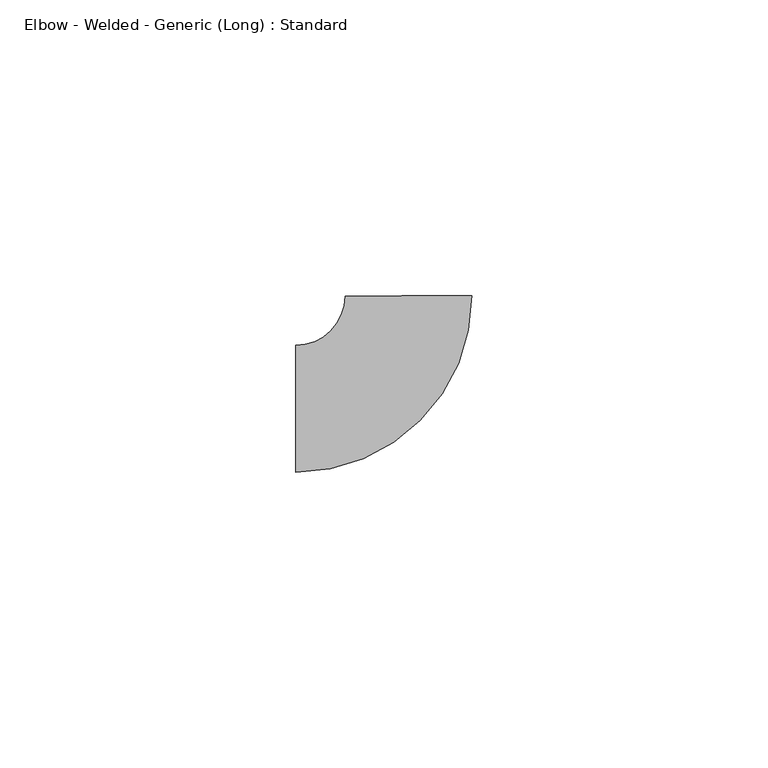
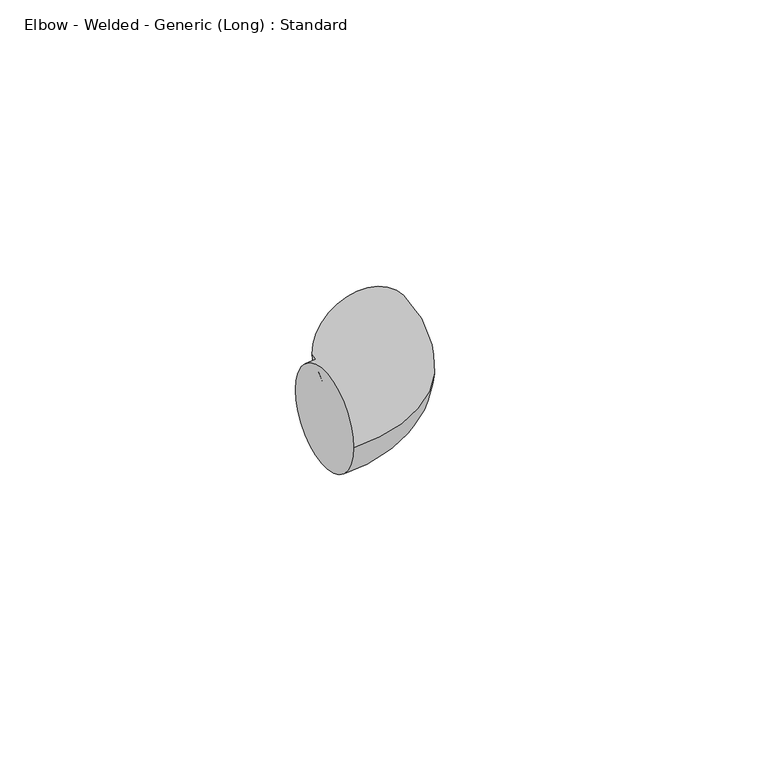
"""IFC4 building model written with IfcOpenShell, lengths in millimetres: pipe fitting geometry, Elbow - Welded - Generic (Long) : Standard."""

import ifcopenshell
import ifcopenshell.guid

model = None  # the IFC model being written
_history = None  # IfcOwnerHistory: only IFC2X3 demands one
_inside = {}  # id of a spatial element -> (the spatial element, [elements in it])
_under = {}  # id of a project, library or spatial element -> (it, [spatial elements below it])
_declared = {}  # id of a project -> (the project, [libraries it declares])
_typed = {}  # id of a type object -> (the type object, [elements of that type])
_made_of = {}  # id of a material, layer set ... -> (it, [elements and type objects made of it])


def new_model(schema):
    """Start an empty IFC model of exactly this schema.

    Asked for "IFC4X3", IfcOpenShell would pick the latest addendum, in which some entities
    have other attributes; the version numbers below select the first issue.
    IFC2X3 requires an IfcOwnerHistory on every rooted entity: one is made here for all.
    """
    global model, _history
    if schema == "IFC4X3":
        model = ifcopenshell.file(schema_version=(4, 3, 0, 0))
    else:
        model = ifcopenshell.file(schema=schema)
    _inside.clear()
    _under.clear()
    _declared.clear()
    _typed.clear()
    _made_of.clear()
    _history = None
    if model.schema == "IFC2X3":
        org = make("IfcOrganization", Name="unknown")
        user = make(
            "IfcPersonAndOrganization",
            ThePerson=make("IfcPerson", FamilyName="unknown"),
            TheOrganization=org,
        )
        app = make(
            "IfcApplication",
            ApplicationDeveloper=org,
            Version="unknown",
            ApplicationFullName="unknown",
            ApplicationIdentifier="unknown",
        )
        _history = make(
            "IfcOwnerHistory",
            OwningUser=user,
            OwningApplication=app,
            ChangeAction="ADDED",
            CreationDate=0,
        )
    return model


def make(cls, **values):
    """One entity of the class cls with the attributes given. An attribute that is None is left unset."""
    return model.create_entity(
        cls, **{name: value for name, value in values.items() if value is not None}
    )


def rooted(cls, **values):
    """An entity with a GlobalId (a new one), such as an element, a storey or a relation."""
    return make(cls, GlobalId=ifcopenshell.guid.new(), OwnerHistory=_history, **values)


def si_unit(unit_type, name, prefix=None):
    """IfcSIUnit, for example si_unit("LENGTHUNIT", "METRE", prefix="MILLI")."""
    return make("IfcSIUnit", UnitType=unit_type, Prefix=prefix, Name=name)


def assignment(units):
    """IfcUnitAssignment: the units of a project."""
    return None if units is None else make("IfcUnitAssignment", Units=units)


def point(xyz):
    """IfcCartesianPoint."""
    return None if xyz is None else make("IfcCartesianPoint", Coordinates=xyz)


def direction(xyz):
    """IfcDirection."""
    return None if xyz is None else make("IfcDirection", DirectionRatios=xyz)


def frame(location, z_axis=None, x_axis=None):
    """IfcAxis2Placement3D, a coordinate frame: its origin and axes. An axis left out is left unset."""
    return make(
        "IfcAxis2Placement3D",
        Location=point(location),
        Axis=direction(z_axis),
        RefDirection=direction(x_axis),
    )


def origin():
    """The frame at (0, 0, 0) with its axes left unset."""
    return frame((0.0, 0.0, 0.0))


def place(relative_to, where):
    """IfcLocalPlacement: puts the frame where relative to a parent placement (None: the world)."""
    return make(
        "IfcLocalPlacement", PlacementRelTo=relative_to, RelativePlacement=where
    )


def context(
    kind, dimensions, precision=None, world=None, true_north=None, identifier=None
):
    """IfcGeometricRepresentationContext, for example the 3D "Model" context."""
    return make(
        "IfcGeometricRepresentationContext",
        ContextIdentifier=identifier,
        ContextType=kind,
        CoordinateSpaceDimension=dimensions,
        Precision=precision,
        WorldCoordinateSystem=world,
        TrueNorth=true_north,
    )


def project(units=None, contexts=None):
    """IfcProject with its units and contexts."""
    return rooted(
        "IfcProject",
        Name="project",
        RepresentationContexts=contexts,
        UnitsInContext=assignment(units),
    )


def spatial(cls, under=None, at=None, **own):
    """A site, building, storey or space (cls), placed at a placement, below another one or the project."""
    s = rooted(cls, ObjectPlacement=at, **own)
    if under is not None:
        _under.setdefault(under.id(), (under, []))[1].append(s)
    return s


def circle_curve(where, radius):
    """IfcCircle in the frame where."""
    return make("IfcCircle", Position=where, Radius=radius)


def ellipse_curve(where, semi_axis1, semi_axis2):
    """IfcEllipse in the frame where."""
    return make(
        "IfcEllipse", Position=where, SemiAxis1=semi_axis1, SemiAxis2=semi_axis2
    )


def trimmed(basis, trim1, trim2, sense, master):
    """IfcTrimmedCurve: the piece of a basis curve between two trims."""
    return make(
        "IfcTrimmedCurve",
        BasisCurve=basis,
        Trim1=trim1,
        Trim2=trim2,
        SenseAgreement=sense,
        MasterRepresentation=master,
    )


def shape(context_of_items, identifier, shape_type, items):
    """IfcShapeRepresentation: the items that make up one representation, for example the "Body"."""
    return make(
        "IfcShapeRepresentation",
        ContextOfItems=context_of_items,
        RepresentationIdentifier=identifier,
        RepresentationType=shape_type,
        Items=items,
    )


def source(mapping_origin, context_of_items, identifier, shape_type, items):
    """IfcRepresentationMap: a shape defined once, which mapped items show again and again."""
    return make(
        "IfcRepresentationMap",
        MappingOrigin=mapping_origin,
        MappedRepresentation=shape(context_of_items, identifier, shape_type, items),
    )


def transform(
    local_origin,
    x_axis=None,
    y_axis=None,
    z_axis=None,
    scale=None,
    scale2=None,
    scale3=None,
    uniform=True,
):
    """IfcCartesianTransformationOperator3D, or its non-uniform kind. x_axis, y_axis, z_axis: its Axis1, 2, 3."""
    if uniform:
        return make(
            "IfcCartesianTransformationOperator3D",
            Axis1=direction(x_axis),
            Axis2=direction(y_axis),
            LocalOrigin=point(local_origin),
            Scale=scale,
            Axis3=direction(z_axis),
        )
    return make(
        "IfcCartesianTransformationOperator3DnonUniform",
        Axis1=direction(x_axis),
        Axis2=direction(y_axis),
        LocalOrigin=point(local_origin),
        Scale=scale,
        Axis3=direction(z_axis),
        Scale2=scale2,
        Scale3=scale3,
    )


def mapped(mapping_source, mapping_target):
    """IfcMappedItem: shows the shape of a source again, moved by a transform."""
    return make(
        "IfcMappedItem", MappingSource=mapping_source, MappingTarget=mapping_target
    )


def made_of(thing, what):
    """Note that an element or type object is made of a material, layer set ...; save() writes the relation."""
    if what is not None:
        _made_of.setdefault(what.id(), (what, []))[1].append(thing)
    return thing


def element(
    cls,
    number,
    at=None,
    inside=None,
    cuts=None,
    type_object=None,
    material=None,
    context=None,
    identifier="Body",
    shape_type=None,
    held_by="IfcProductDefinitionShape",
    body=None,
    shapes=None,
    **own,
):
    """One element of the class cls, such as IfcWall. Its Tag is "e" and its number.

    at: its placement. inside: the storey or other place that contains it. cuts: it is an
    opening in that element (IfcRelVoidsElement). A single representation is given by context,
    identifier, shape_type and body (its items); several are given by shapes. held_by: the class
    of the entity that holds the representations. save() writes the other relations.
    """
    e = rooted(cls, Tag="e%d" % number, ObjectPlacement=at, **own)
    if body is not None:
        shapes = [shape(context, identifier, shape_type, body)]
    if shapes is not None:
        e.Representation = make(held_by, Representations=shapes)
    if inside is not None:
        _inside.setdefault(inside.id(), (inside, []))[1].append(e)
    if cuts is not None:
        rooted(
            "IfcRelVoidsElement", RelatingBuildingElement=cuts, RelatedOpeningElement=e
        )
    if type_object is not None:
        _typed.setdefault(type_object.id(), (type_object, []))[1].append(e)
    return made_of(e, material)


def aggregate(whole, parts):
    """IfcRelAggregates: a whole, such as a stair, and the parts it consists of."""
    return rooted("IfcRelAggregates", RelatingObject=whole, RelatedObjects=parts)


def save(model, path):
    """Write the relations noted so far, then the file.

    IfcRelAggregates (storeys below a building ...), IfcRelContainedInSpatialStructure (elements
    in a storey), IfcRelDefinesByType, IfcRelAssociatesMaterial and IfcRelDeclares: one each for
    every whole, place, type object, material and project.
    """
    for whole, parts in _under.values():
        aggregate(whole, parts)
    for where, things in _inside.values():
        rooted(
            "IfcRelContainedInSpatialStructure",
            RelatedElements=things,
            RelatingStructure=where,
        )
    for kind, things in _typed.values():
        rooted("IfcRelDefinesByType", RelatedObjects=things, RelatingType=kind)
    for what, things in _made_of.values():
        rooted("IfcRelAssociatesMaterial", RelatedObjects=things, RelatingMaterial=what)
    for by, libraries in _declared.values():
        rooted("IfcRelDeclares", RelatingContext=by, RelatedDefinitions=libraries)
    model.write(path)


def plane_surface(at):
    """IfcPlane: the flat surface through the origin of the frame at, square to its z axis."""
    return make("IfcPlane", Position=at)


def revolved_surface(curve, axis_point, axis_direction):
    """IfcSurfaceOfRevolution: the curve turned about the line through axis_point along axis_direction."""
    return make(
        "IfcSurfaceOfRevolution",
        SweptCurve=make("IfcArbitraryOpenProfileDef", ProfileType="CURVE", Curve=curve),
        AxisPosition=make("IfcAxis1Placement", Location=point(axis_point), Axis=direction(axis_direction)),
    )


def advanced_brep(points, edges, surfaces, faces):
    """IfcAdvancedBrep: a solid bounded by faces that lie on surfaces and meet in shared edges.

    An edge is (start, end): straight between two places in points (the first is 0);
    or (start, end, curve); or (start, end, curve, False) where it runs against its curve.
    A face is (place in surfaces, loops), or (place, loops, False) where it looks against
    its surface's normal. A loop lists edges by number (the first is 1), with a minus sign
    where the edge is run from its end to its start. The first loop is the outer one.
    """
    corners = [point(p) for p in points]
    vertices = [make("IfcVertexPoint", VertexGeometry=c) for c in corners]
    made = []
    for start, end, *more in edges:
        made.append(
            make(
                "IfcEdgeCurve",
                EdgeStart=vertices[start],
                EdgeEnd=vertices[end],
                EdgeGeometry=more[0] if more else make("IfcPolyline", Points=[corners[start], corners[end]]),
                SameSense=more[1] if len(more) > 1 else True,
            )
        )
    hull = []
    for where, loops, *sense in faces:
        bounds = []
        for j, loop in enumerate(loops):
            ring = [make("IfcOrientedEdge", EdgeElement=made[abs(k) - 1], Orientation=k > 0) for k in loop]
            bounds.append(
                make(
                    "IfcFaceOuterBound" if j == 0 else "IfcFaceBound",
                    Bound=make("IfcEdgeLoop", EdgeList=ring),
                    Orientation=True,
                )
            )
        hull.append(make("IfcAdvancedFace", Bounds=bounds, FaceSurface=surfaces[where], SameSense=sense[0] if sense else True))
    return make("IfcAdvancedBrep", Outer=make("IfcClosedShell", CfsFaces=hull))


def elbow_welded_generic_long_standard_0522d76d(model_context):
    return source(origin(), model_context, "Body", "AdvancedBrep", [
        advanced_brep(
        [(-19.05, -10.715625, 0.0), (-19.05, 10.715625, 0.0), (10.686137, 19.066557, 0.0), (-10.7450873, 19.0333974, 0.0)],
        [
            (0, 1, circle_curve(frame((-19.05, 0.0, 0.0), z_axis=(-1.0, 0.0, 0.0), x_axis=(0.0, 1.0, 0.0)), 10.715625)),
            (1, 0, circle_curve(frame((-19.05, 0.0, 0.0), z_axis=(-1.0, 0.0, 0.0), x_axis=(0.0, 1.0, 0.0)), 10.715625)),
            (2, 3, circle_curve(frame((-0.0294751, 19.0499772, 0.0), z_axis=(-0.00154725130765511, 0.9999988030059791, 0.0), x_axis=(-0.9999988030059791, -0.00154725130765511, 0.0)), 10.715625)),
            (3, 2, circle_curve(frame((-0.0294751, 19.0499772, 0.0), z_axis=(-0.00154725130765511, 0.9999988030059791, 0.0), x_axis=(-0.9999988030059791, -0.00154725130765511, 0.0)), 10.715625)),
            (3, 1, circle_curve(frame((-19.05, 19.0205476, 0.0), z_axis=(0.0, 0.0, -1.0), x_axis=(0.0, -1.0, 0.0)), 8.3049226)),
            (0, 2, circle_curve(frame((-19.05, 19.0205476, 0.0), z_axis=(0.0, 0.0, 1.0), x_axis=(0.0, -1.0, 0.0)), 29.7361726)),
        ],
        [
            plane_surface(frame((-19.05, 0.0, 0.0), z_axis=(-1.0, 0.0, 0.0), x_axis=(0.0, 0.0, 1.0))),
            plane_surface(frame((-0.0294751, 19.0499772, 0.0), z_axis=(-0.0015472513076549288, 0.9999988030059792, 0.0), x_axis=(0.0, 0.0, 1.0))),
            revolved_surface(trimmed(ellipse_curve(frame((-19.05, 0.0, 0.0), z_axis=(-1.0, 0.0, 0.0), x_axis=(0.0, 1.0, 0.0)), 10.715625, 10.715625), [point((-19.05, -10.715625, 0.0))], [point((-19.05, 10.715625, 0.0))], True, "CARTESIAN"), (-19.05, 19.0205476, 0.0), (0.0, 0.0, 1.0)),
            revolved_surface(trimmed(ellipse_curve(frame((-19.05, 0.0, 0.0), z_axis=(-1.0, 0.0, 0.0), x_axis=(0.0, 1.0, 0.0)), 10.715625, 10.715625), [point((-19.05, 10.715625, 0.0))], [point((-19.05, -10.715625, 0.0))], True, "CARTESIAN"), (-19.05, 19.0205476, 0.0), (0.0, 0.0, 1.0)),
        ],
        [
            (0, [[1, 2]]),
            (1, [[3, 4]]),
            (2, [[5, -1, 6, -4]]),
            (3, [[-6, -2, -5, -3]]),
        ],
    ),
    ])


if __name__ == "__main__":
    model = new_model("IFC4")
    model_context = context("Model", 3, world=origin())
    ifc_project = project(units=[si_unit("LENGTHUNIT", "METRE", prefix="MILLI")], contexts=[model_context])
    site = spatial("IfcSite", under=ifc_project)
    building = spatial("IfcBuilding", under=site)
    placement = place(None, origin())
    elbow_welded_generic_long_standard_shape = elbow_welded_generic_long_standard_0522d76d(model_context)
    element("IfcPipeFitting", 1, ObjectType="Elbow - Welded - Generic (Long) : Standard", at=placement, inside=building, context=model_context, shape_type="MappedRepresentation", body=[
        mapped(elbow_welded_generic_long_standard_shape, transform((0.0, 0.0, 0.0), x_axis=(1.0, 0.0, 0.0), y_axis=(0.0, 1.0, 0.0), z_axis=(0.0, 0.0, 1.0))),
    ])
    save(model, "model.ifc")
